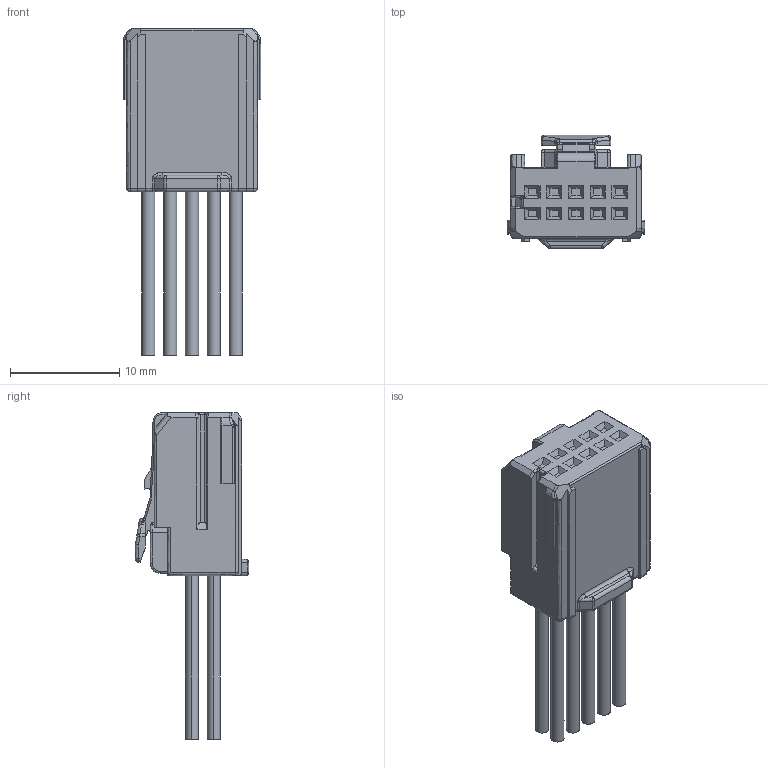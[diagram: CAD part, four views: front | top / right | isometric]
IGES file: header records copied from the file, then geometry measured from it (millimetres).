
Start section: SolidWorks IGES file using analytic representation for surfaces
Global section: file name: C:\Users\08803\Desktop\PDM\ISH全シリーズモデル(STEP)2017.2.6時点\垂直\10P\ISH 10P FEMALE CONNECTOR VERTICAL.IGS; native system: SolidWorks 2017; preprocessor: SolidWorks 2017; author: 08803; date: 180821.192148; units: millimetre
Bounding box: 12.6 x 10.4 x 29.95 mm (x, y, z)
Surface area: 1532 mm2 (no closed solid volume)
Topology: 0 solids, 0 shells, 421 faces, 2842 edges, 2831 vertices
Faces by surface type: bspline 285, revolution 136
